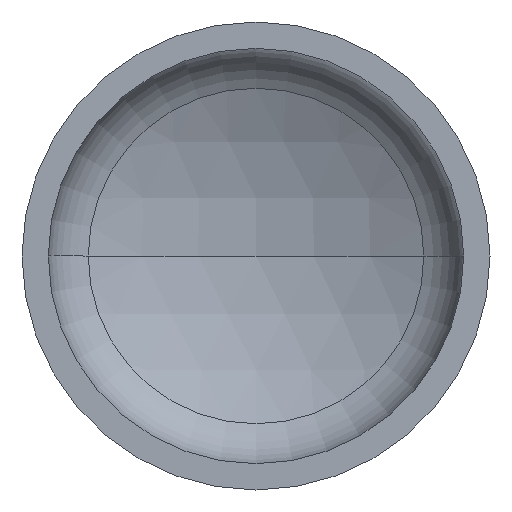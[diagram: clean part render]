
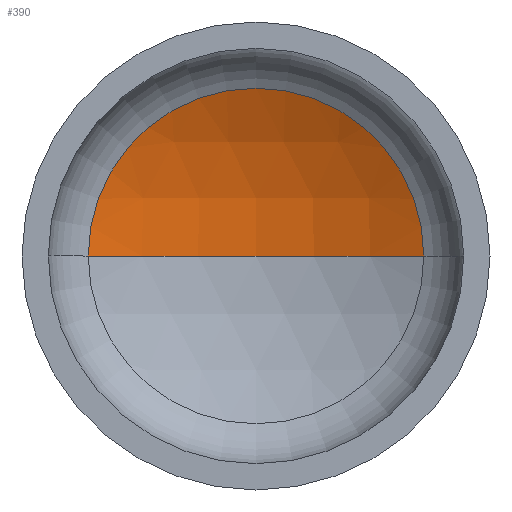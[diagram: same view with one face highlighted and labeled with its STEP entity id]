
A CAD part, front view. The second image highlights one B-rep face of the part: STEP entity #390.
In plain terms, the highlighted spherical face has radius 284 mm.
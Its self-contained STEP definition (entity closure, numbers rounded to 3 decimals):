
#3 = EDGE_LOOP ( 'NONE', ( #60, #35, #71 ) ) ;
#4 = AXIS2_PLACEMENT_3D ( 'NONE', #106, #51, #388 ) ;
#17 = AXIS2_PLACEMENT_3D ( 'NONE', #281, #206, #75 ) ;
#20 = AXIS2_PLACEMENT_3D ( 'NONE', #307, #125, #261 ) ;
#23 = AXIS2_PLACEMENT_3D ( 'NONE', #240, #399, #402 ) ;
#35 = ORIENTED_EDGE ( 'NONE', *, *, #361, .T. ) ;
#51 = DIRECTION ( 'NONE',  ( 0., 0., -1. ) ) ;
#60 = ORIENTED_EDGE ( 'NONE', *, *, #365, .F. ) ;
#71 = ORIENTED_EDGE ( 'NONE', *, *, #359, .T. ) ;
#75 = DIRECTION ( 'NONE',  ( 1., 0., 0. ) ) ;
#81 = CIRCLE ( 'NONE', #20, 284. ) ;
#106 = CARTESIAN_POINT ( 'NONE',  ( 0., -144.629, 0. ) ) ;
#121 = VERTEX_POINT ( 'NONE', #300 ) ;
#125 = DIRECTION ( 'NONE',  ( 0., 0., -1. ) ) ;
#186 = CARTESIAN_POINT ( 'NONE',  ( 127.49, 109.147, 0. ) ) ;
#189 = VERTEX_POINT ( 'NONE', #330 ) ;
#194 = CIRCLE ( 'NONE', #23, 127.49 ) ;
#206 = DIRECTION ( 'NONE',  ( 0., 0., 1. ) ) ;
#234 = VERTEX_POINT ( 'NONE', #186 ) ;
#240 = CARTESIAN_POINT ( 'NONE',  ( 0., 109.147, 0. ) ) ;
#257 = SPHERICAL_SURFACE ( 'NONE', #4, 284. ) ;
#261 = DIRECTION ( 'NONE',  ( -1., 0., 0. ) ) ;
#281 = CARTESIAN_POINT ( 'NONE',  ( 0., -144.629, 0. ) ) ;
#300 = CARTESIAN_POINT ( 'NONE',  ( 0., 139.371, 0. ) ) ;
#307 = CARTESIAN_POINT ( 'NONE',  ( 0., -144.629, 0. ) ) ;
#320 = FACE_OUTER_BOUND ( 'NONE', #3, .T. ) ;
#325 = CIRCLE ( 'NONE', #17, 284. ) ;
#330 = CARTESIAN_POINT ( 'NONE',  ( -127.49, 109.147, 0. ) ) ;
#359 = EDGE_CURVE ( 'NONE', #234, #189, #194, .T. ) ;
#361 = EDGE_CURVE ( 'NONE', #121, #234, #81, .T. ) ;
#365 = EDGE_CURVE ( 'NONE', #121, #189, #325, .T. ) ;
#388 = DIRECTION ( 'NONE',  ( -1., 0., 0. ) ) ;
#390 = ADVANCED_FACE ( 'NONE', ( #320 ), #257, .F. ) ;
#399 = DIRECTION ( 'NONE',  ( 0., -1., 0. ) ) ;
#402 = DIRECTION ( 'NONE',  ( 1., 0., 0. ) ) ;
